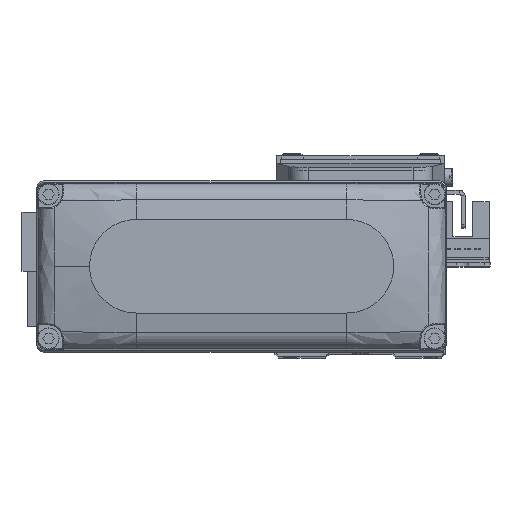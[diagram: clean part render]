
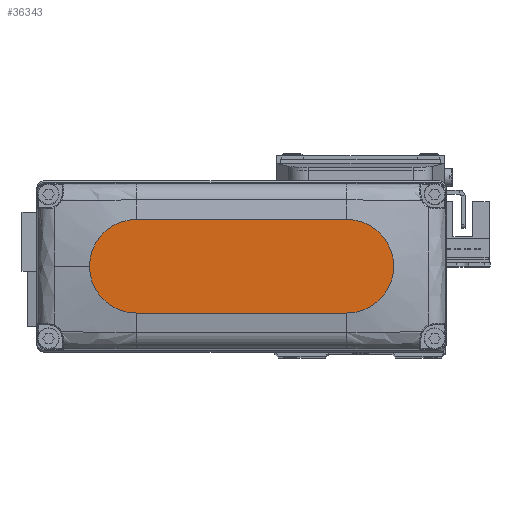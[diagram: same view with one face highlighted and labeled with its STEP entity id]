
A CAD part, top view. The second image highlights one B-rep face of the part: STEP entity #36343.
In plain terms, the highlighted planar face has unit normal (0, 0, 1).
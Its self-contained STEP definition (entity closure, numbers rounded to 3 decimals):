
#717 = DIRECTION ( 'NONE',  ( 0., 0., 1. ) ) ;
#1537 = CIRCLE ( 'NONE', #39097, 12. ) ;
#3251 = DIRECTION ( 'NONE',  ( 1., 0., 0. ) ) ;
#3638 = AXIS2_PLACEMENT_3D ( 'NONE', #24883, #15521, #27089 ) ;
#4505 = VECTOR ( 'NONE', #21470, 1000. ) ;
#5688 = VERTEX_POINT ( 'NONE', #36853 ) ;
#6307 = VERTEX_POINT ( 'NONE', #8417 ) ;
#6414 = CIRCLE ( 'NONE', #28711, 12. ) ;
#6832 = LINE ( 'NONE', #37521, #37979 ) ;
#8309 = ORIENTED_EDGE ( 'NONE', *, *, #24685, .T. ) ;
#8417 = CARTESIAN_POINT ( 'NONE',  ( 39., 0., 25. ) ) ;
#8621 = CIRCLE ( 'NONE', #21384, 12. ) ;
#9288 = DIRECTION ( 'NONE',  ( 1., 0., 0. ) ) ;
#9301 = CARTESIAN_POINT ( 'NONE',  ( -27., 12., 25. ) ) ;
#9330 = PLANE ( 'NONE',  #3638 ) ;
#9487 = LINE ( 'NONE', #9301, #4505 ) ;
#9686 = DIRECTION ( 'NONE',  ( 1., 0., 0. ) ) ;
#11932 = FACE_OUTER_BOUND ( 'NONE', #28196, .T. ) ;
#15521 = DIRECTION ( 'NONE',  ( 0., 0., 1. ) ) ;
#15706 = CARTESIAN_POINT ( 'NONE',  ( -27., 0., 25. ) ) ;
#19565 = CARTESIAN_POINT ( 'NONE',  ( -27., 12., 25. ) ) ;
#21384 = AXIS2_PLACEMENT_3D ( 'NONE', #27040, #33599, #9288 ) ;
#21470 = DIRECTION ( 'NONE',  ( -1., 0., 0. ) ) ;
#24685 = EDGE_CURVE ( 'NONE', #30761, #26608, #1537, .T. ) ;
#24883 = CARTESIAN_POINT ( 'NONE',  ( 0., 0., 25. ) ) ;
#25918 = ORIENTED_EDGE ( 'NONE', *, *, #31540, .T. ) ;
#26237 = EDGE_CURVE ( 'NONE', #35423, #6307, #8621, .T. ) ;
#26608 = VERTEX_POINT ( 'NONE', #32172 ) ;
#27040 = CARTESIAN_POINT ( 'NONE',  ( 27., 0., 25. ) ) ;
#27085 = DIRECTION ( 'NONE',  ( 1., 0., 0. ) ) ;
#27089 = DIRECTION ( 'NONE',  ( 1., 0., 0. ) ) ;
#27868 = DIRECTION ( 'NONE',  ( 0., 0., 1. ) ) ;
#28196 = EDGE_LOOP ( 'NONE', ( #36200, #8309, #37047, #28488, #25918 ) ) ;
#28488 = ORIENTED_EDGE ( 'NONE', *, *, #26237, .T. ) ;
#28711 = AXIS2_PLACEMENT_3D ( 'NONE', #36995, #717, #9686 ) ;
#28968 = EDGE_CURVE ( 'NONE', #26608, #35423, #6832, .T. ) ;
#30761 = VERTEX_POINT ( 'NONE', #19565 ) ;
#31540 = EDGE_CURVE ( 'NONE', #6307, #5688, #6414, .T. ) ;
#31568 = EDGE_CURVE ( 'NONE', #5688, #30761, #9487, .T. ) ;
#32172 = CARTESIAN_POINT ( 'NONE',  ( -27., -12., 25. ) ) ;
#33599 = DIRECTION ( 'NONE',  ( 0., 0., 1. ) ) ;
#35423 = VERTEX_POINT ( 'NONE', #37869 ) ;
#36200 = ORIENTED_EDGE ( 'NONE', *, *, #31568, .T. ) ;
#36343 = ADVANCED_FACE ( 'NONE', ( #11932 ), #9330, .T. ) ;
#36853 = CARTESIAN_POINT ( 'NONE',  ( 27., 12., 25. ) ) ;
#36995 = CARTESIAN_POINT ( 'NONE',  ( 27., 0., 25. ) ) ;
#37047 = ORIENTED_EDGE ( 'NONE', *, *, #28968, .T. ) ;
#37521 = CARTESIAN_POINT ( 'NONE',  ( -27., -12., 25. ) ) ;
#37869 = CARTESIAN_POINT ( 'NONE',  ( 27., -12., 25. ) ) ;
#37979 = VECTOR ( 'NONE', #3251, 1000. ) ;
#39097 = AXIS2_PLACEMENT_3D ( 'NONE', #15706, #27868, #27085 ) ;
